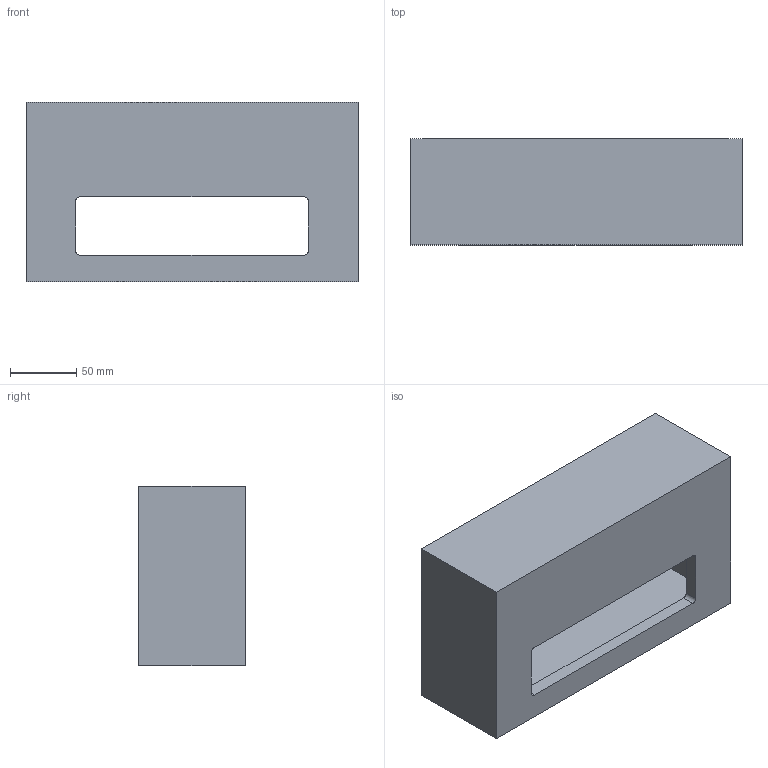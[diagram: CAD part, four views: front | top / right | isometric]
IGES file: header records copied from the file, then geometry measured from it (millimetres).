
Start section: SolidWorks IGES file using analytic representation for surfaces
Global section: file name: C:\Users\Stagiaire\Desktop\Rendu 3D\BRIC & SAQQARA\3055_SAQQARA\3055_SAQQARA.IGS; native system: SolidWorks 2014; preprocessor: SolidWorks 2014; author: Stagiaire; date: 140916.105052; units: millimetre
Bounding box: 250 x 80 x 135 mm (x, y, z)
Surface area: 166411.2 mm2 (no closed solid volume)
Topology: 0 solids, 0 shells, 19 faces, 152 edges, 152 vertices
Faces by surface type: bspline 15, revolution 4
